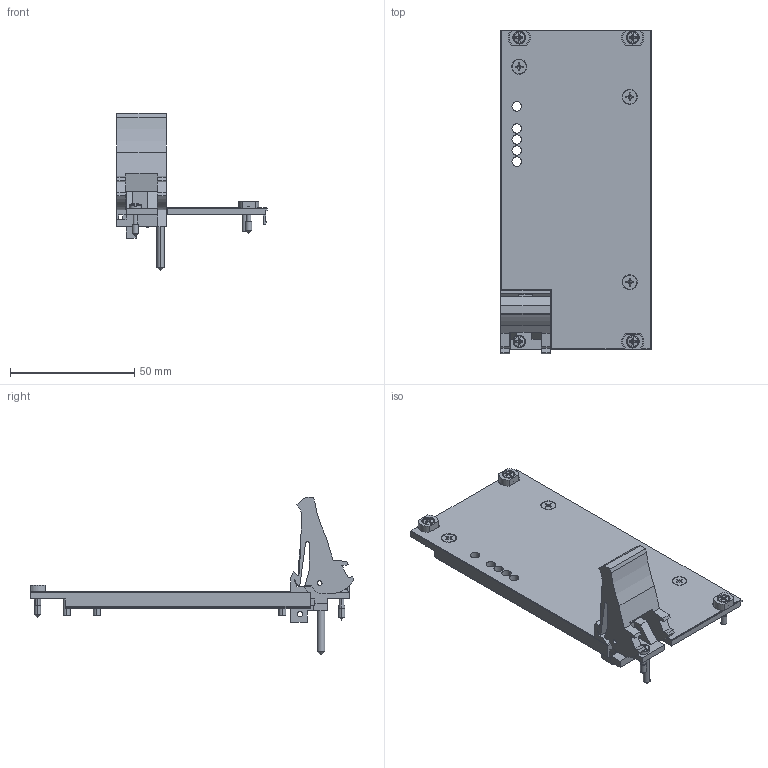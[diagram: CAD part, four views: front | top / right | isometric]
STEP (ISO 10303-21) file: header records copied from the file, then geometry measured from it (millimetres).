
FILE_DESCRIPTION((''),'2;1');
FILE_NAME('CU_NI-8260','2013-11-05T',('jjorden'),(''),'PRO/ENGINEER BY PARAMETRIC TECHNOLOGY CORPORATION, 2011490','PRO/ENGINEER BY PARAMETRIC TECHNOLOGY CORPORATION, 2011490','');
FILE_SCHEMA(('CONFIG_CONTROL_DESIGN'));
Length unit declared in the file: inch
Products named in the file (1): CU_NI-8260
Bounding box: 60.64 x 130.36 x 63.53 mm (x, y, z)
Volume: 30587.8 mm3; surface area: 24846.3 mm2
Topology: 4 solids, 4 shells, 510 faces, 1336 edges, 799 vertices
Faces by surface type: plane 287, cylinder 113, bspline 60, cone 32, sphere 10, torus 8
Entity records: 16377 total; most frequent: CARTESIAN_POINT 4203, ORIENTED_EDGE 2532, DIRECTION 2403, EDGE_CURVE 1266, VERTEX_POINT 856, VECTOR 843, LINE 843, AXIS2_PLACEMENT_3D 780
